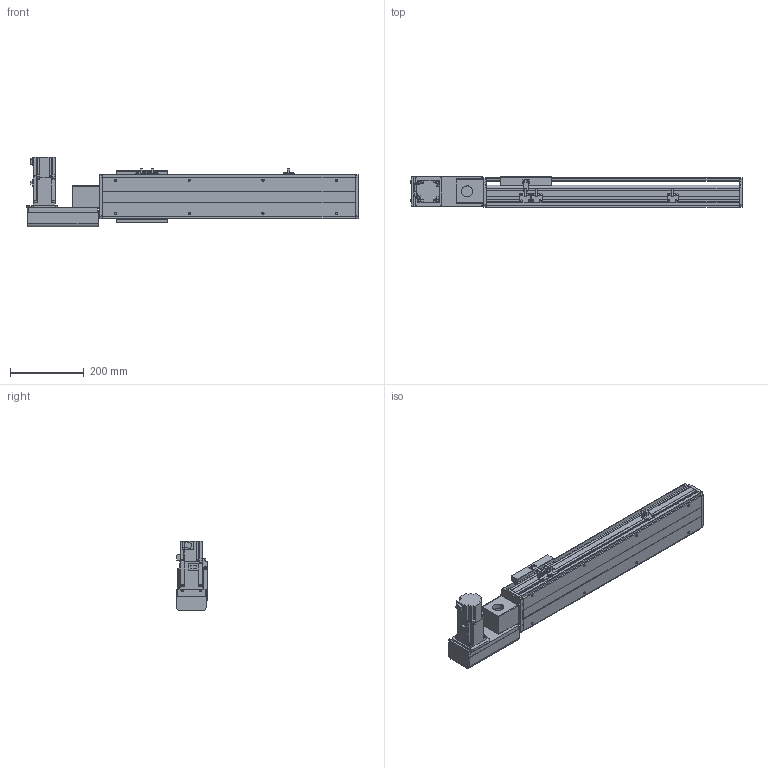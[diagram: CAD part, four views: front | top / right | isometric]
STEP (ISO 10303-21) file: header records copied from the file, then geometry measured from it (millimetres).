
FILE_DESCRIPTION( ( 'STEP AP214' ), '1' );
FILE_NAME( 'x:/temp/worker_26/temp/exporttempdir_3776_55_1bQY0/format_0/PBS120-P40-S400-L-T40-C1-N(0).stp', '2022-06-05T00:24:16', ( 'License CC BY-ND 4.0' ), ( 'CADENAS' ), ' ', 'PARTsolutions', ' ' );
FILE_SCHEMA( ( 'AUTOMOTIVE_DESIGN { 1 0 10303 214 1 1 1 1 }' ) );
Length unit declared in the file: millimetre
Products named in the file (7): PBS120-P40-S400-L-T40-C1-N(0); _PBS120-S400()_body; _PBS120T-L_motors; _T40-p1; _PBS120_sliser; _PBS120_plant; _PBS120_sensor
Assembly tree (8 placements, depth 2):
  PBS120-P40-S400-L-T40-C1-N(0)
    _PBS120-S400()_body
    _PBS120T-L_motors
    _T40-p1
    _PBS120_sliser
    _PBS120_plant
    _PBS120_sensor  x3
Bounding box: 901 x 83 x 189.7 mm (x, y, z)
Volume: 4008430.8 mm3; surface area: 732757.3 mm2
Topology: 8 solids, 8 shells, 804 faces, 2116 edges, 1363 vertices
Faces by surface type: plane 541, cylinder 221, cone 40, torus 2
Full cylindrical faces by diameter (mm): 2.459 x6, 3.242 x4, 4 x2, 4.134 x4, 4.5 x10, 4.917 x12, 5.5 x11, 6 x2, 6.6 x1, 7 x2, 8.5 x4, 9 x4, 12 x1, 14 x1, 30 x2, 40 x1, 50 x2
Entity records: 26652 total; most frequent: DIRECTION 3644, CARTESIAN_POINT 3605, ORIENTED_EDGE 3454, EDGE_CURVE 1727, LINE 1228, VECTOR 1228, AXIS2_PLACEMENT_3D 1208, VERTEX_POINT 1169
